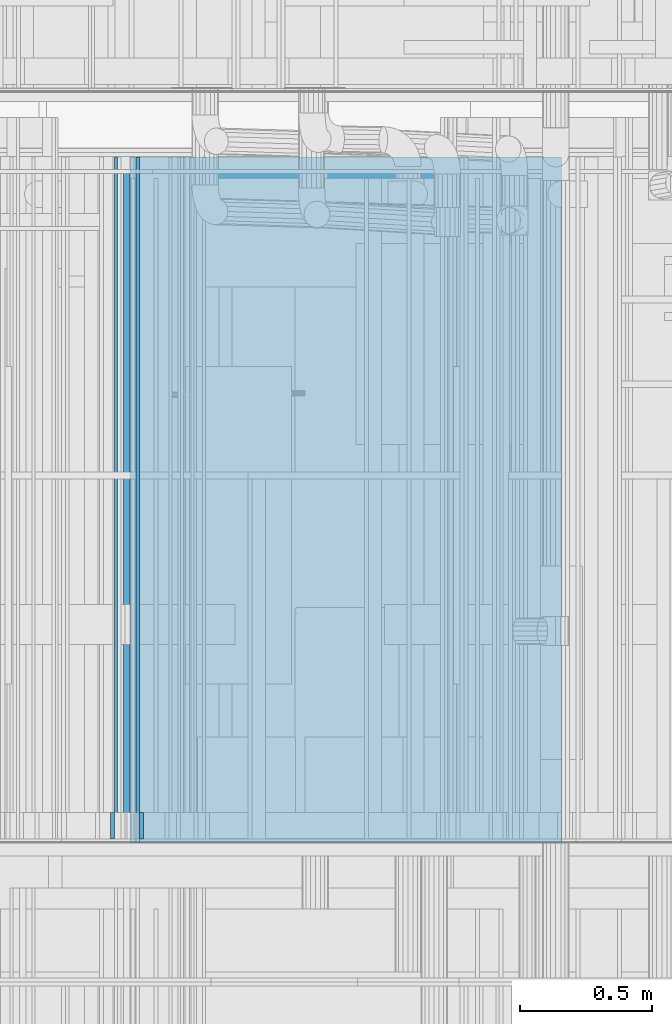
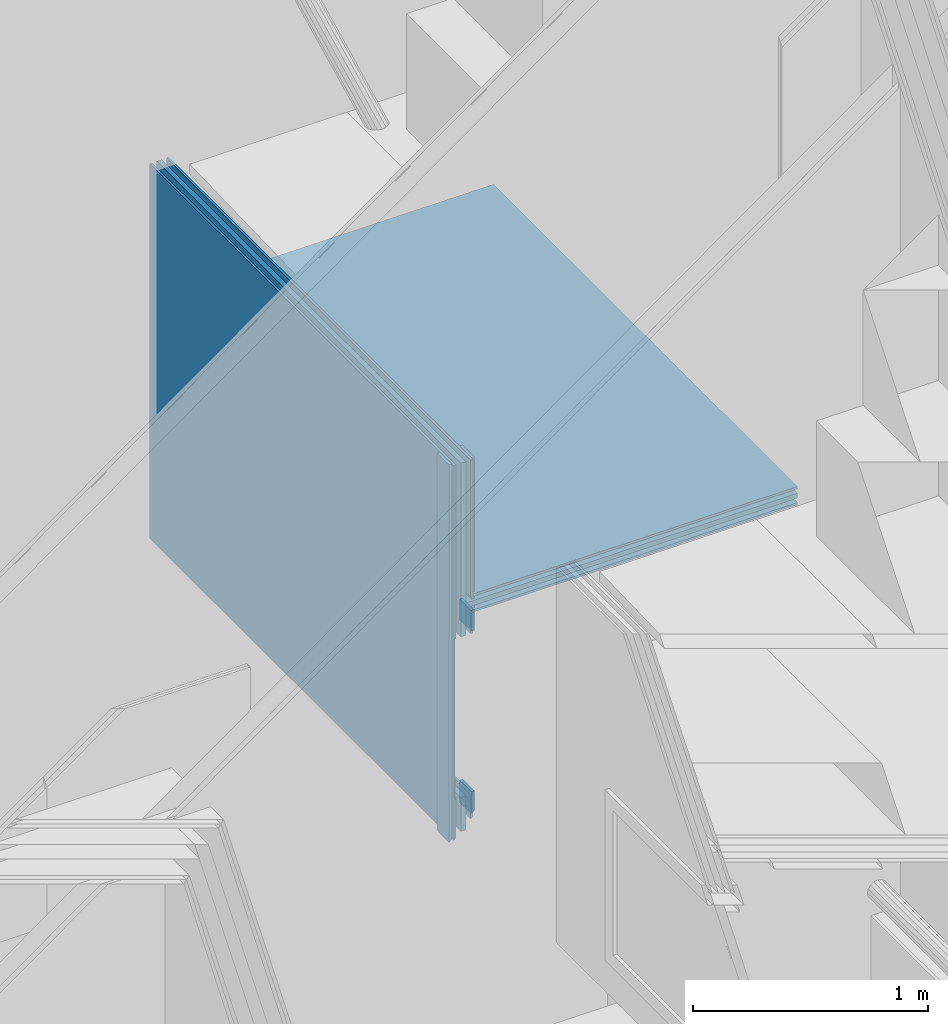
# One storey, part 97 of 583: 10 building element parts, 2 openings, 2 elements without a shape of their own.
"""IFC2X3 building model written with IfcOpenShell, lengths in metres."""

from ifc_helpers import new_model, entity, si_unit, converted_unit, derived_unit, money_unit, direction, frame, frame_2d, origin_with_axes, place, context, subcontext, project, spatial, polyline, rectangle, outline, extrude, material, type_object, element, aggregate, save


model = new_model("IFC2X3")

# Units and contexts
model_context = context("Model", 3, precision=1e-05, world=origin_with_axes(), true_north=direction((0.0, 1.0)))
body_context = subcontext(model_context, "Body", "Model", "MODEL_VIEW", scale=1.0)
ifc_project = project(units=[si_unit("LENGTHUNIT", "METRE"), si_unit("AREAUNIT", "SQUARE_METRE"), si_unit("VOLUMEUNIT", "CUBIC_METRE"), si_unit("ABSORBEDDOSEUNIT", "GRAY"), si_unit("AMOUNTOFSUBSTANCEUNIT", "MOLE"), si_unit("DOSEEQUIVALENTUNIT", "SIEVERT"), si_unit("ELECTRICCAPACITANCEUNIT", "FARAD"), si_unit("ELECTRICCHARGEUNIT", "COULOMB"), si_unit("ELECTRICCONDUCTANCEUNIT", "SIEMENS"), si_unit("ELECTRICCURRENTUNIT", "AMPERE"), si_unit("ELECTRICRESISTANCEUNIT", "OHM"), si_unit("ELECTRICVOLTAGEUNIT", "VOLT"), si_unit("ENERGYUNIT", "JOULE"), si_unit("FORCEUNIT", "NEWTON"), si_unit("FREQUENCYUNIT", "HERTZ"), si_unit("ILLUMINANCEUNIT", "LUX"), si_unit("INDUCTANCEUNIT", "HENRY"), si_unit("LUMINOUSFLUXUNIT", "LUMEN"), si_unit("LUMINOUSINTENSITYUNIT", "CANDELA"), si_unit("MAGNETICFLUXDENSITYUNIT", "TESLA"), si_unit("MAGNETICFLUXUNIT", "WEBER"), si_unit("MASSUNIT", "GRAM"), converted_unit("PLANEANGLEUNIT", "degree", entity("IfcReal", 0.0174532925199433), si_unit("PLANEANGLEUNIT", "RADIAN"), dimensions=[0, 0, 0, 0, 0, 0, 0]), si_unit("POWERUNIT", "WATT"), si_unit("PRESSUREUNIT", "PASCAL"), si_unit("RADIOACTIVITYUNIT", "BECQUEREL"), si_unit("SOLIDANGLEUNIT", "STERADIAN"), si_unit("THERMODYNAMICTEMPERATUREUNIT", "KELVIN"), si_unit("TIMEUNIT", "SECOND"), derived_unit("ACCELERATIONUNIT", [(si_unit("LENGTHUNIT", "METRE"), 1), (si_unit("TIMEUNIT", "SECOND"), -2)]), derived_unit("ANGULARVELOCITYUNIT", [(converted_unit("PLANEANGLEUNIT", "degree", entity("IfcReal", 0.0174532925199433), si_unit("PLANEANGLEUNIT", "RADIAN"), dimensions=[0, 0, 0, 0, 0, 0, 0]), 1), (si_unit("TIMEUNIT", "SECOND"), -1)]), derived_unit("CURVATUREUNIT", [(converted_unit("PLANEANGLEUNIT", "degree", entity("IfcReal", 0.0174532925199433), si_unit("PLANEANGLEUNIT", "RADIAN"), dimensions=[0, 0, 0, 0, 0, 0, 0]), 1), (si_unit("LENGTHUNIT", "METRE"), -1)]), derived_unit("DYNAMICVISCOSITYUNIT", [(si_unit("PRESSUREUNIT", "PASCAL"), 1), (si_unit("TIMEUNIT", "SECOND"), 1)]), derived_unit("HEATFLUXDENSITYUNIT", [(si_unit("POWERUNIT", "WATT"), 1), (si_unit("LENGTHUNIT", "METRE"), -2)]), derived_unit("HEATINGVALUEUNIT", [(si_unit("ENERGYUNIT", "JOULE"), 1), (si_unit("MASSUNIT", "GRAM"), -1)]), derived_unit("INTEGERCOUNTRATEUNIT", [(si_unit("TIMEUNIT", "SECOND"), -1)]), derived_unit("IONCONCENTRATIONUNIT", [(si_unit("MASSUNIT", "GRAM"), 1), (si_unit("VOLUMEUNIT", "CUBIC_METRE"), -1)]), derived_unit("ISOTHERMALMOISTURECAPACITYUNIT", [(si_unit("VOLUMEUNIT", "CUBIC_METRE"), 1), (si_unit("MASSUNIT", "GRAM"), -1)]), derived_unit("KINEMATICVISCOSITYUNIT", [(si_unit("AREAUNIT", "SQUARE_METRE"), 1), (si_unit("TIMEUNIT", "SECOND"), -1)]), derived_unit("LINEARFORCEUNIT", [(si_unit("FORCEUNIT", "NEWTON"), 1), (si_unit("LENGTHUNIT", "METRE"), -1)]), derived_unit("LINEARMOMENTUNIT", [(si_unit("FORCEUNIT", "NEWTON"), 1), (si_unit("LENGTHUNIT", "METRE"), -1)]), derived_unit("LINEARSTIFFNESSUNIT", [(si_unit("FORCEUNIT", "NEWTON"), 1), (si_unit("LENGTHUNIT", "METRE"), -1)]), derived_unit("LINEARVELOCITYUNIT", [(si_unit("LENGTHUNIT", "METRE"), 1), (si_unit("TIMEUNIT", "SECOND"), -1)]), derived_unit("LUMINOUSINTENSITYDISTRIBUTIONUNIT", [(si_unit("LUMINOUSINTENSITYUNIT", "CANDELA"), 1), (si_unit("LUMINOUSFLUXUNIT", "LUMEN"), -1)]), derived_unit("MASSDENSITYUNIT", [(si_unit("MASSUNIT", "GRAM"), 1), (si_unit("VOLUMEUNIT", "CUBIC_METRE"), -1)]), derived_unit("MASSFLOWRATEUNIT", [(si_unit("MASSUNIT", "GRAM"), 1), (si_unit("TIMEUNIT", "SECOND"), -1)]), derived_unit("MASSPERLENGTHUNIT", [(si_unit("MASSUNIT", "GRAM"), 1), (si_unit("LENGTHUNIT", "METRE"), -1)]), derived_unit("MODULUSOFELASTICITYUNIT", [(si_unit("FORCEUNIT", "NEWTON"), 1), (si_unit("AREAUNIT", "SQUARE_METRE"), -1)]), derived_unit("MODULUSOFLINEARSUBGRADEREACTIONUNIT", [(si_unit("FORCEUNIT", "NEWTON"), 1), (si_unit("LENGTHUNIT", "METRE"), -2)]), derived_unit("MODULUSOFROTATIONALSUBGRADEREACTIONUNIT", [(si_unit("FORCEUNIT", "NEWTON"), 1), (si_unit("LENGTHUNIT", "METRE"), 1)]), derived_unit("MODULUSOFSUBGRADEREACTIONUNIT", [(si_unit("FORCEUNIT", "NEWTON"), 1), (si_unit("VOLUMEUNIT", "CUBIC_METRE"), -1)]), derived_unit("MOISTUREDIFFUSIVITYUNIT", [(si_unit("VOLUMEUNIT", "CUBIC_METRE"), 1), (si_unit("TIMEUNIT", "SECOND"), -1)]), derived_unit("MOLECULARWEIGHTUNIT", [(si_unit("MASSUNIT", "GRAM"), 1), (si_unit("AMOUNTOFSUBSTANCEUNIT", "MOLE"), -1)]), derived_unit("PLANARFORCEUNIT", [(si_unit("FORCEUNIT", "NEWTON"), 1), (si_unit("LENGTHUNIT", "METRE"), -2)]), derived_unit("ROTATIONALFREQUENCYUNIT", [(si_unit("TIMEUNIT", "SECOND"), -1)]), derived_unit("ROTATIONALMASSUNIT", [(si_unit("MASSUNIT", "GRAM"), 1), (si_unit("LENGTHUNIT", "METRE"), 2)]), derived_unit("ROTATIONALSTIFFNESSUNIT", [(si_unit("FORCEUNIT", "NEWTON"), 1), (si_unit("LENGTHUNIT", "METRE"), 1), (converted_unit("PLANEANGLEUNIT", "degree", entity("IfcReal", 0.0174532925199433), si_unit("PLANEANGLEUNIT", "RADIAN"), dimensions=[0, 0, 0, 0, 0, 0, 0]), -1)]), derived_unit("SECTIONAREAINTEGRALUNIT", [(si_unit("LENGTHUNIT", "METRE"), 5)]), derived_unit("SECTIONMODULUSUNIT", [(si_unit("LENGTHUNIT", "METRE"), 3)]), derived_unit("SHEARMODULUSUNIT", [(si_unit("FORCEUNIT", "NEWTON"), 1), (si_unit("AREAUNIT", "SQUARE_METRE"), -1)]), derived_unit("SOUNDPOWERUNIT", [(si_unit("ENERGYUNIT", "JOULE"), 1), (si_unit("TIMEUNIT", "SECOND"), -1)]), derived_unit("SPECIFICHEATCAPACITYUNIT", [(si_unit("FORCEUNIT", "NEWTON"), 1), (si_unit("MASSUNIT", "GRAM"), -1), (si_unit("THERMODYNAMICTEMPERATUREUNIT", "KELVIN"), -1)]), derived_unit("TEMPERATUREGRADIENTUNIT", [(si_unit("THERMODYNAMICTEMPERATUREUNIT", "KELVIN"), 1), (si_unit("LENGTHUNIT", "METRE"), -1)]), derived_unit("THERMALADMITTANCEUNIT", [(si_unit("POWERUNIT", "WATT"), 1), (si_unit("AREAUNIT", "SQUARE_METRE"), -1), (si_unit("THERMODYNAMICTEMPERATUREUNIT", "KELVIN"), -1)]), derived_unit("THERMALCONDUCTANCEUNIT", [(si_unit("POWERUNIT", "WATT"), 1), (si_unit("LENGTHUNIT", "METRE"), -1), (si_unit("THERMODYNAMICTEMPERATUREUNIT", "KELVIN"), -1)]), derived_unit("THERMALEXPANSIONCOEFFICIENTUNIT", [(si_unit("THERMODYNAMICTEMPERATUREUNIT", "KELVIN"), -1)]), derived_unit("THERMALRESISTANCEUNIT", [(si_unit("AREAUNIT", "SQUARE_METRE"), 1), (si_unit("POWERUNIT", "WATT"), -1)]), derived_unit("THERMALTRANSMITTANCEUNIT", [(si_unit("POWERUNIT", "WATT"), 1), (si_unit("AREAUNIT", "SQUARE_METRE"), -1), (si_unit("THERMODYNAMICTEMPERATUREUNIT", "KELVIN"), -1)]), derived_unit("TORQUEUNIT", [(si_unit("FORCEUNIT", "NEWTON"), 1), (si_unit("LENGTHUNIT", "METRE"), 1)]), derived_unit("VAPORPERMEABILITYUNIT", [(si_unit("MASSUNIT", "GRAM"), 1), (si_unit("TIMEUNIT", "SECOND"), -1)]), derived_unit("VOLUMETRICFLOWRATEUNIT", [(si_unit("VOLUMEUNIT", "CUBIC_METRE"), 1), (si_unit("TIMEUNIT", "SECOND"), -1)]), derived_unit("WARPINGCONSTANTUNIT", [(si_unit("LENGTHUNIT", "METRE"), 6)]), derived_unit("WARPINGMOMENTUNIT", [(si_unit("FORCEUNIT", "NEWTON"), 1), (si_unit("LENGTHUNIT", "METRE"), 2)]), money_unit("GBP")], contexts=[model_context])

# Site, building, storey
site_placement = place(None, origin_with_axes())
site = spatial("IfcSite", under=ifc_project, at=site_placement, Name="Site", CompositionType="ELEMENT")
building_placement = place(site_placement, origin_with_axes())
building = spatial("IfcBuilding", under=site, at=building_placement, Name="Building01", CompositionType="ELEMENT")
storey_placement = place(building_placement, frame((0.0, 0.0, 20.78), z_axis=(0.0, 0.0, 1.0), x_axis=(1.0, 0.0, 0.0)))
storey = spatial("IfcBuildingStorey", under=building, at=storey_placement, Name="RL", CompositionType="ELEMENT", Elevation=20.78)

# Wall, openings, building element parts
wall_type = type_object("IfcWallType", Name="SHE_A-Walls_Type05a_Partition_95mm_tall", PredefinedType="NOTDEFINED")
wall_1_placement = place(storey_placement, frame((6.94, 12.13, 0.577661), z_axis=(0.0, 1.0, 0.0), x_axis=(0.0, 0.0, 1.0)))
wall_1 = element("IfcWall", 1, at=wall_1_placement, inside=storey, type_object=wall_type, Name="5A", ObjectType="SHE_A-Walls_Type05a_Partition_95mm_tall")
opening_1_placement = place(wall_1_placement, frame((0.177, 0.005, -0.015), z_axis=(0.0, 0.0, 1.0), x_axis=(1.0, 0.0, 0.0)))
element("IfcOpeningElement", 2, at=opening_1_placement, cuts=wall_1, Name="Opening", ObjectType="Opening", context=body_context, shape_type="SweptSolid", body=[
    extrude(rectangle(XDim=2.142, YDim=0.834, at=frame_2d((-0.417, 1.071), x_axis=(0.0, -1.0))), frame((0.0, -0.03, 0.0), z_axis=(0.0, 1.0, 0.0), x_axis=(-1.0, 0.0, 0.0)), (0.0, 0.0, 1.0), 0.06),
])
opening_2_placement = place(wall_1_placement, frame((0.177, 0.06, 0.0), z_axis=(0.0, 0.0, 1.0), x_axis=(1.0, 0.0, 0.0)))
element("IfcOpeningElement", 3, at=opening_2_placement, cuts=wall_1, Name="Opening", ObjectType="Opening", context=body_context, shape_type="SweptSolid", body=[
    extrude(rectangle(XDim=2.142, YDim=0.834, at=frame_2d((-0.417, 1.071), x_axis=(0.0, -1.0))), frame((0.0, -0.09, 0.0), z_axis=(0.0, 1.0, 0.0), x_axis=(-1.0, 0.0, 0.0)), (0.0, 0.0, 1.0), 0.18),
])
ifc_material_1 = material(Name="A_BSUK_Insulation")
placement_1 = place(wall_1_placement, origin_with_axes())
building_element_part_1 = element("IfcBuildingElementPart", 4, at=placement_1, material=ifc_material_1, Name="1", context=body_context, shape_type="SweptSolid", body=[
    extrude(rectangle(XDim=1.913868, YDim=0.025, at=frame_2d((0.956934, 0.0125), x_axis=(-1.0, 0.0))), origin_with_axes(), (0.0, 0.0, 1.0), 2.59),
])
ifc_material_2 = material(Name="A_BSUK_Walls_Timber")
building_element_part_2 = element("IfcBuildingElementPart", 5, at=placement_1, material=ifc_material_2, Name="2", context=body_context, shape_type="SweptSolid", body=[
    extrude(outline(polyline([(1.119, 0.075), (0.075, 0.075), (0.06, 0.06), (1.119, 0.06), (1.119, 0.075)])), frame((0.0, 0.0, 0.015), z_axis=(0.0, 0.0, 1.0), x_axis=(1.0, 0.0, 0.0)), (0.0, 0.0, 1.0), 0.1),
])
building_element_part_3 = element("IfcBuildingElementPart", 6, at=placement_1, material=ifc_material_2, Name="3", context=body_context, shape_type="SweptSolid", body=[
    extrude(outline(polyline([(1.913868, -0.035), (-0.035, -0.035), (-0.05, -0.05), (1.913868, -0.05), (1.913868, -0.035)])), frame((0.0, 0.0, 0.015), z_axis=(0.0, 0.0, 1.0), x_axis=(1.0, 0.0, 0.0)), (0.0, 0.0, 1.0), 0.1),
])
building_element_part_4 = element("IfcBuildingElementPart", 7, at=placement_1, material=ifc_material_2, Name="4", context=body_context, shape_type="SweptSolid", body=[
    extrude(outline(polyline([(1.913868, 0.075), (0.075, 0.075), (0.06, 0.06), (1.913868, 0.06), (1.913868, 0.075)])), frame((0.0, 0.0, 0.015), z_axis=(0.0, 0.0, 1.0), x_axis=(1.0, 0.0, 0.0)), (0.0, 0.0, 1.0), 0.1),
])
ifc_material_3 = material(Name="A_BSUK_WallInternal_Finishes_Plasterboard")
building_element_part_5 = element("IfcBuildingElementPart", 8, at=placement_1, material=ifc_material_3, Name="5", context=body_context, shape_type="SweptSolid", body=[
    extrude(outline(polyline([(1.131, 0.06), (0.06, 0.06), (0.048, 0.048), (1.131, 0.048), (1.131, 0.06)])), origin_with_axes(), (0.0, 0.0, 1.0), 2.59),
])
building_element_part_6 = element("IfcBuildingElementPart", 9, at=placement_1, material=ifc_material_3, Name="6", context=body_context, shape_type="SweptSolid", body=[
    extrude(outline(polyline([(1.913868, -0.023), (-0.023, -0.023), (-0.035, -0.035), (1.913868, -0.035), (1.913868, -0.023)])), origin_with_axes(), (0.0, 0.0, 1.0), 2.59),
])
building_element_part_7 = element("IfcBuildingElementPart", 10, at=placement_1, material=ifc_material_3, Name="7", context=body_context, shape_type="SweptSolid", body=[
    extrude(rectangle(XDim=0.711868, YDim=0.012, at=frame_2d((1.557934, 0.054), x_axis=(-1.0, 0.0))), origin_with_axes(), (0.0, 0.0, 1.0), 2.59),
])
aggregate(wall_1, [building_element_part_1, building_element_part_2, building_element_part_3, building_element_part_4, building_element_part_5, building_element_part_6, building_element_part_7])

# Wall, building element parts
wall_2_placement = place(storey_placement, frame((6.965, 12.13, 1.756661), z_axis=(0.0, 1.0, 0.0), x_axis=(1.0, 0.0, 0.0)))
wall_2 = element("IfcWall", 11, at=wall_2_placement, inside=storey, type_object=wall_type, Name="5A", ObjectType="SHE_A-Walls_Type05a_Partition_95mm_tall")
placement_2 = place(wall_2_placement, origin_with_axes())
building_element_part_8 = element("IfcBuildingElementPart", 12, at=placement_2, material=ifc_material_1, Name="1", context=body_context, shape_type="SweptSolid", body=[
    extrude(rectangle(XDim=1.63, YDim=0.025, at=frame_2d((0.815, 0.0125), x_axis=(-1.0, 0.0))), origin_with_axes(), (0.0, 0.0, 1.0), 2.59),
])
building_element_part_9 = element("IfcBuildingElementPart", 13, at=placement_2, material=ifc_material_3, Name="4", context=body_context, shape_type="SweptSolid", body=[
    extrude(rectangle(XDim=1.595, YDim=0.012, at=frame_2d((0.8325, 0.054), x_axis=(-1.0, 0.0))), origin_with_axes(), (0.0, 0.0, 1.0), 2.59),
])
building_element_part_10 = element("IfcBuildingElementPart", 14, at=placement_2, material=ifc_material_3, Name="5", context=body_context, shape_type="SweptSolid", body=[
    extrude(rectangle(XDim=1.595, YDim=0.012, at=frame_2d((0.8325, -0.029), x_axis=(-1.0, 0.0))), origin_with_axes(), (0.0, 0.0, 1.0), 2.59),
])
aggregate(wall_2, [building_element_part_8, building_element_part_9, building_element_part_10])

save(model, "model.ifc")
